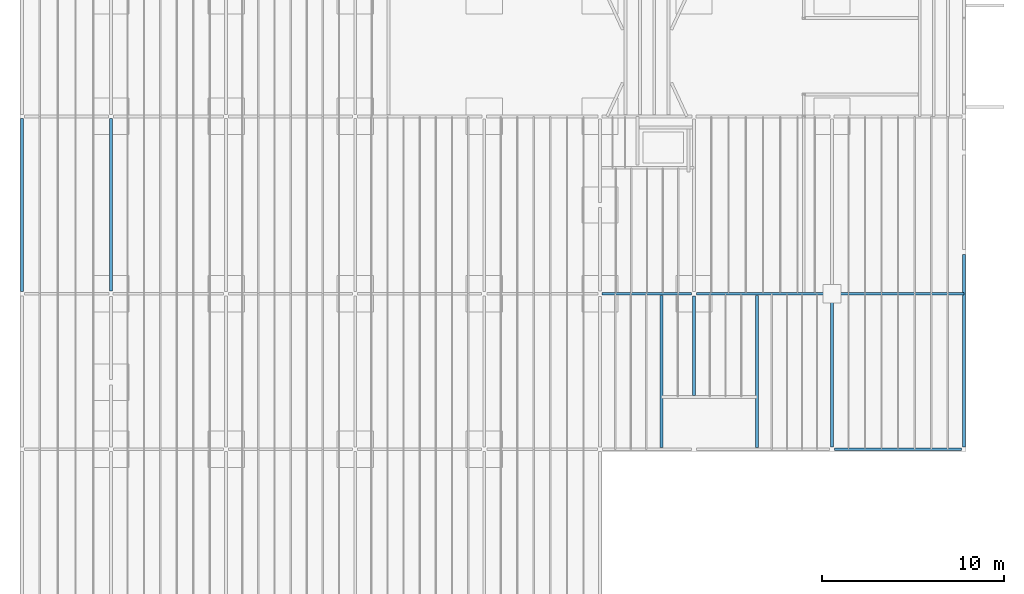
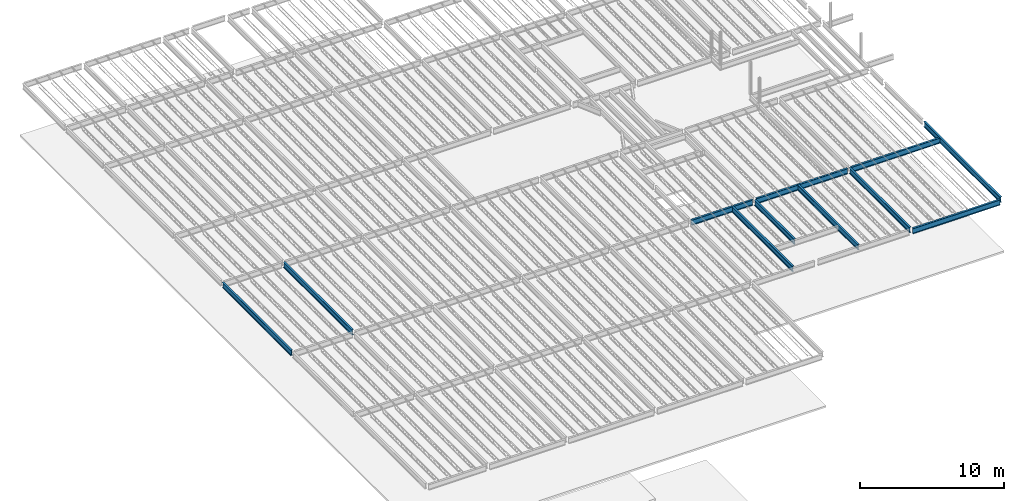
# One storey, part 6 of 75: 11 beams.
"""IFC2X3 building model written with IfcOpenShell, lengths in metres."""

from ifc_helpers import new_model, entity, si_unit, converted_unit, frame, frame_2d, origin, place, context, project, spatial, polyline, circle_curve, parameter, trimmed, segment, composite_curve, outline, extrude, material, element, save


model = new_model("IFC2X3")

# Units and contexts
model_context = context("Model", 3, precision=1e-09, world=origin())
plan_context = context("Plan", 3, precision=1e-09, world=origin())
ifc_project = project(units=[si_unit("LENGTHUNIT", "METRE"), si_unit("AREAUNIT", "SQUARE_METRE"), si_unit("VOLUMEUNIT", "CUBIC_METRE"), converted_unit("PLANEANGLEUNIT", "DEGREE", entity("IfcRatioMeasure", 0.01745329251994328), si_unit("PLANEANGLEUNIT", "RADIAN"), dimensions=[0, 0, 0, 0, 0, 0, 0]), si_unit("TIMEUNIT", "SECOND")], contexts=[model_context, plan_context])

# Site, building, storey
site_placement = place(None, origin())
site = spatial("IfcSite", under=ifc_project, at=site_placement, Name="Default", CompositionType="ELEMENT")
building_placement = place(site_placement, origin())
building = spatial("IfcBuilding", under=site, at=building_placement, CompositionType="ELEMENT")
storey_placement = place(building_placement, origin())
storey = spatial("IfcBuildingStorey", under=building, at=storey_placement, Name="First Floor", CompositionType="ELEMENT", Elevation=-3.531500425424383e-13)

# Beams
ifc_material = material(Name="Metal - Steel - 345 MPa")
beam_1_placement = place(storey_placement, frame((-7.280000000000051, 18.61159788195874, 4.46800000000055), z_axis=(0.0, 0.0, 1.0), x_axis=(-1.0, 0.0, 0.0)))
element("IfcBeam", 1, at=beam_1_placement, inside=storey, material=ifc_material, Name="M_W-Wide Flange:W460X60:W460X60", ObjectType="M_W-Wide Flange:W460X60", context=model_context, shape_type="SweptSolid", body=[
    extrude(outline(composite_curve([segment(polyline([(0.2141999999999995, -0.07650000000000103), (0.2275000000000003, -0.07650000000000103)]), True, "CONTINUOUS"), segment(polyline([(0.2275000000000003, -0.07650000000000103), (0.2275000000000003, 0.07649999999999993)]), True, "CONTINUOUS"), segment(polyline([(0.2275000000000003, 0.07649999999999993), (0.2141999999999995, 0.07649999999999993)]), True, "CONTINUOUS"), segment(polyline([(0.2141999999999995, 0.07649999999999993), (0.2141999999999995, 0.0216999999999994)]), True, "CONTINUOUS"), segment(trimmed(circle_curve(frame_2d((0.1964999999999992, 0.0216999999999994), x_axis=(1.0, 0.0)), 0.0177), [parameter(269.9999999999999)], [parameter(359.9999999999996)], True, "PARAMETER"), False, "CONTINUOUS"), segment(polyline([(0.1964999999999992, 0.003999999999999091), (-0.1965000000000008, 0.003999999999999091)]), True, "CONTINUOUS"), segment(trimmed(circle_curve(frame_2d((-0.1965000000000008, 0.0216999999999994), x_axis=(0.0, -1.0)), 0.0177), [parameter(269.9999999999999)], [parameter(359.9999999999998)], True, "PARAMETER"), False, "CONTINUOUS"), segment(polyline([(-0.2142000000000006, 0.0216999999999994), (-0.2142000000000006, 0.07649999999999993)]), True, "CONTINUOUS"), segment(polyline([(-0.2142000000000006, 0.07649999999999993), (-0.2274999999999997, 0.07649999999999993)]), True, "CONTINUOUS"), segment(polyline([(-0.2274999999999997, 0.07649999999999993), (-0.2274999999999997, -0.07649999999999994)]), True, "CONTINUOUS"), segment(polyline([(-0.2274999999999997, -0.07649999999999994), (-0.2142000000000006, -0.07649999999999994)]), True, "CONTINUOUS"), segment(polyline([(-0.2142000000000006, -0.07649999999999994), (-0.2142000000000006, -0.02170000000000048)]), True, "CONTINUOUS"), segment(trimmed(circle_curve(frame_2d((-0.1965000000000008, -0.02170000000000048), x_axis=(-1.0, 0.0)), 0.0177), [parameter(269.9999999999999)], [parameter(359.9999999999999)], True, "PARAMETER"), False, "CONTINUOUS"), segment(polyline([(-0.1965000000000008, -0.004000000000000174), (0.1964999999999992, -0.004000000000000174)]), True, "CONTINUOUS"), segment(trimmed(circle_curve(frame_2d((0.1964999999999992, -0.02170000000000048), x_axis=(0.0, 1.0)), 0.0177), [parameter(269.9999999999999)], [parameter(5.088887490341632e-14)], True, "PARAMETER"), False, "CONTINUOUS"), segment(polyline([(0.2141999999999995, -0.02170000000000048), (0.2141999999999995, -0.07650000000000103)]), True, "CONTINUOUS")], self_intersect=False)), frame((0.0, 8.456897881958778, -0.2275000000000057), z_axis=(0.0, -1.0, 0.0), x_axis=(0.0, 0.0, -1.0)), (0.0, 0.0, 1.0), 8.340600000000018),
])
beam_2_placement = place(storey_placement, frame((-16.67505879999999, 10.19089431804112, 4.46800000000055)))
element("IfcBeam", 2, at=beam_2_placement, inside=storey, material=ifc_material, Name="M_W-Wide Flange:W460X60:W460X60", ObjectType="M_W-Wide Flange:W460X60", context=model_context, shape_type="SweptSolid", body=[
    extrude(outline(composite_curve([segment(polyline([(-0.0765000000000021, -0.2142), (-0.0765000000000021, -0.2275000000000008)]), True, "CONTINUOUS"), segment(polyline([(-0.0765000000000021, -0.2275000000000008), (0.07649999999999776, -0.2275000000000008)]), True, "CONTINUOUS"), segment(polyline([(0.07649999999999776, -0.2275000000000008), (0.07649999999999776, -0.2142)]), True, "CONTINUOUS"), segment(polyline([(0.07649999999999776, -0.2142), (0.0216999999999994, -0.2142)]), True, "CONTINUOUS"), segment(trimmed(circle_curve(frame_2d((0.0216999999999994, -0.1964999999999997), x_axis=(1.0, 0.0)), 0.0177), [parameter(180.0)], [parameter(269.9999999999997)], True, "PARAMETER"), False, "CONTINUOUS"), segment(polyline([(0.00399999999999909, -0.1964999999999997), (0.00399999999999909, 0.1965000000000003)]), True, "CONTINUOUS"), segment(trimmed(circle_curve(frame_2d((0.0216999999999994, 0.1965000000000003), x_axis=(1.0, 0.0)), 0.0177), [parameter(90.00000000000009)], [parameter(179.9999999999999)], True, "PARAMETER"), False, "CONTINUOUS"), segment(polyline([(0.0216999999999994, 0.2142000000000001), (0.07649999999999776, 0.2142000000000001)]), True, "CONTINUOUS"), segment(polyline([(0.07649999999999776, 0.2142000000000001), (0.07649999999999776, 0.2274999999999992)]), True, "CONTINUOUS"), segment(polyline([(0.07649999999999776, 0.2274999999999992), (-0.0765000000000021, 0.2274999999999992)]), True, "CONTINUOUS"), segment(polyline([(-0.0765000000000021, 0.2274999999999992), (-0.0765000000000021, 0.2142000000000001)]), True, "CONTINUOUS"), segment(polyline([(-0.0765000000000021, 0.2142000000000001), (-0.02170000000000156, 0.2142000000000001)]), True, "CONTINUOUS"), segment(trimmed(circle_curve(frame_2d((-0.02170000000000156, 0.1965000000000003), x_axis=(1.0, 0.0)), 0.0177), [parameter(359.9999999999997)], [parameter(89.99999999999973)], True, "PARAMETER"), False, "CONTINUOUS"), segment(polyline([(-0.004000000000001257, 0.1965000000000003), (-0.004000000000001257, -0.1964999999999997)]), True, "CONTINUOUS"), segment(trimmed(circle_curve(frame_2d((-0.02170000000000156, -0.1964999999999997), x_axis=(1.0, 0.0)), 0.0177), [parameter(269.9999999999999)], [parameter(0.0)], True, "PARAMETER"), False, "CONTINUOUS"), segment(polyline([(-0.02170000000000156, -0.2142), (-0.0765000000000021, -0.2142)]), True, "CONTINUOUS")], self_intersect=False)), frame((0.0, -0.06169431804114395, -0.2275000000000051), z_axis=(0.0, -1.0, 0.0), x_axis=(1.0, 0.0, 0.0)), (0.0, 0.0, -1.0), 8.391600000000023),
])
beam_3_placement = place(storey_placement, frame((-47.0, 18.60859834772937, 4.46800000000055)))
element("IfcBeam", 3, at=beam_3_placement, inside=storey, material=ifc_material, Name="M_W-Wide Flange:W460X60:W460X60", ObjectType="M_W-Wide Flange:W460X60", context=model_context, shape_type="SweptSolid", body=[
    extrude(outline(composite_curve([segment(polyline([(-0.07649999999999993, -0.2142), (-0.07649999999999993, -0.2275000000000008)]), True, "CONTINUOUS"), segment(polyline([(-0.07649999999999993, -0.2275000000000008), (0.07649999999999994, -0.2275000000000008)]), True, "CONTINUOUS"), segment(polyline([(0.07649999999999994, -0.2275000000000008), (0.07649999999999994, -0.2142)]), True, "CONTINUOUS"), segment(polyline([(0.07649999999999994, -0.2142), (0.02170000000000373, -0.2142)]), True, "CONTINUOUS"), segment(trimmed(circle_curve(frame_2d((0.02170000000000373, -0.1964999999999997), x_axis=(0.0, -1.0)), 0.0177), [parameter(269.9999999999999)], [parameter(359.9999999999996)], True, "PARAMETER"), False, "CONTINUOUS"), segment(polyline([(0.003999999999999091, -0.1964999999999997), (0.003999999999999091, 0.1965000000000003)]), True, "CONTINUOUS"), segment(trimmed(circle_curve(frame_2d((0.02170000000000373, 0.1965000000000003), x_axis=(-1.0, 0.0)), 0.0177), [parameter(269.9999999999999)], [parameter(359.9999999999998)], True, "PARAMETER"), False, "CONTINUOUS"), segment(polyline([(0.02170000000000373, 0.2142000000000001), (0.07649999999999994, 0.2142000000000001)]), True, "CONTINUOUS"), segment(polyline([(0.07649999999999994, 0.2142000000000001), (0.07649999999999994, 0.2274999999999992)]), True, "CONTINUOUS"), segment(polyline([(0.07649999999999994, 0.2274999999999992), (-0.07649999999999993, 0.2274999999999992)]), True, "CONTINUOUS"), segment(polyline([(-0.07649999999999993, 0.2274999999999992), (-0.07649999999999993, 0.2142000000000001)]), True, "CONTINUOUS"), segment(polyline([(-0.07649999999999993, 0.2142000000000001), (-0.02170000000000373, 0.2142000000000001)]), True, "CONTINUOUS"), segment(trimmed(circle_curve(frame_2d((-0.02169999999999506, 0.1965000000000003), x_axis=(0.0, 1.0)), 0.0177), [parameter(269.9999999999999)], [parameter(359.9999999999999)], True, "PARAMETER"), False, "CONTINUOUS"), segment(polyline([(-0.003999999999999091, 0.1965000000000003), (-0.003999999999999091, -0.1964999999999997)]), True, "CONTINUOUS"), segment(trimmed(circle_curve(frame_2d((-0.02169999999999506, -0.1964999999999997), x_axis=(1.0, 0.0)), 0.0177), [parameter(269.9999999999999)], [parameter(5.088887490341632e-14)], True, "PARAMETER"), False, "CONTINUOUS"), segment(polyline([(-0.02170000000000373, -0.2142), (-0.07649999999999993, -0.2142)]), True, "CONTINUOUS")], self_intersect=False)), frame((0.0, 0.1426016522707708, -0.2275000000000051), z_axis=(0.0, -1.0, 0.0), x_axis=(1.0, 0.0, 0.0)), (0.0, 0.0, -1.0), 9.514099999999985),
])
beam_4_placement = place(storey_placement, frame((-7.60177678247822, 18.60999999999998, 4.404500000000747), z_axis=(0.0, 0.0, 1.0), x_axis=(0.0, -1.0, 0.0)))
element("IfcBeam", 4, at=beam_4_placement, inside=storey, material=ifc_material, Name="M_W-Wide Flange:W460X60:W460X60", ObjectType="M_W-Wide Flange:W460X60", context=model_context, shape_type="SweptSolid", body=[
    extrude(outline(composite_curve([segment(polyline([(-0.07650000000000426, -0.2141999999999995), (-0.07650000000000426, -0.2275000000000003)]), True, "CONTINUOUS"), segment(polyline([(-0.07650000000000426, -0.2275000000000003), (0.0764999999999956, -0.2275000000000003)]), True, "CONTINUOUS"), segment(polyline([(0.0764999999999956, -0.2275000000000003), (0.0764999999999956, -0.2141999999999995)]), True, "CONTINUOUS"), segment(polyline([(0.0764999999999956, -0.2141999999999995), (0.02169999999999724, -0.2141999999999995)]), True, "CONTINUOUS"), segment(trimmed(circle_curve(frame_2d((0.02169999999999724, -0.1964999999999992), x_axis=(1.0, 0.0)), 0.0177), [parameter(180.0)], [parameter(269.9999999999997)], True, "PARAMETER"), False, "CONTINUOUS"), segment(polyline([(0.003999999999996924, -0.1964999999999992), (0.003999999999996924, 0.1965000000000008)]), True, "CONTINUOUS"), segment(trimmed(circle_curve(frame_2d((0.02169999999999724, 0.1965000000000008), x_axis=(1.0, 0.0)), 0.0177), [parameter(90.00000000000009)], [parameter(179.9999999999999)], True, "PARAMETER"), False, "CONTINUOUS"), segment(polyline([(0.02169999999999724, 0.2142000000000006), (0.0764999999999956, 0.2142000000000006)]), True, "CONTINUOUS"), segment(polyline([(0.0764999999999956, 0.2142000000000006), (0.0764999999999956, 0.2274999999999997)]), True, "CONTINUOUS"), segment(polyline([(0.0764999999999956, 0.2274999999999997), (-0.07650000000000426, 0.2274999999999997)]), True, "CONTINUOUS"), segment(polyline([(-0.07650000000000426, 0.2274999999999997), (-0.07650000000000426, 0.2142000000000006)]), True, "CONTINUOUS"), segment(polyline([(-0.07650000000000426, 0.2142000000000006), (-0.02170000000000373, 0.2142000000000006)]), True, "CONTINUOUS"), segment(trimmed(circle_curve(frame_2d((-0.02170000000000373, 0.1965000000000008), x_axis=(1.0, 0.0)), 0.0177), [parameter(359.9999999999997)], [parameter(89.99999999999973)], True, "PARAMETER"), False, "CONTINUOUS"), segment(polyline([(-0.004000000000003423, 0.1965000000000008), (-0.004000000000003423, -0.1964999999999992)]), True, "CONTINUOUS"), segment(trimmed(circle_curve(frame_2d((-0.02170000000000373, -0.1964999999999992), x_axis=(1.0, 0.0)), 0.0177), [parameter(269.9999999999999)], [parameter(0.0)], True, "PARAMETER"), False, "CONTINUOUS"), segment(polyline([(-0.02170000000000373, -0.2141999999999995), (-0.07650000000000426, -0.2141999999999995)]), True, "CONTINUOUS")], self_intersect=False)), frame((0.0, 0.4629767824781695, -0.2275000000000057), z_axis=(0.0, -1.0, 0.0), x_axis=(1.0, 0.0, 0.0)), (0.0, 0.0, -1.0), 7.138800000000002),
])
beam_5_placement = place(storey_placement, frame((0.0, 10.03874004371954, 4.46800000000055)))
element("IfcBeam", 5, at=beam_5_placement, inside=storey, material=ifc_material, Name="M_W-Wide Flange:W460X60:W460X60", ObjectType="M_W-Wide Flange:W460X60", context=model_context, shape_type="SweptSolid", body=[
    extrude(outline(composite_curve([segment(polyline([(-0.07650000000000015, -0.2142), (-0.07650000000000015, -0.2275000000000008)]), True, "CONTINUOUS"), segment(polyline([(-0.07650000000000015, -0.2275000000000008), (0.07650000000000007, -0.2275000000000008)]), True, "CONTINUOUS"), segment(polyline([(0.07650000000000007, -0.2275000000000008), (0.07650000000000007, -0.2142)]), True, "CONTINUOUS"), segment(polyline([(0.07650000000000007, -0.2142), (0.02169999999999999, -0.2142)]), True, "CONTINUOUS"), segment(trimmed(circle_curve(frame_2d((0.02169999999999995, -0.1964999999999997), x_axis=(1.0, 0.0)), 0.0177), [parameter(180.0)], [parameter(269.9999999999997)], True, "PARAMETER"), False, "CONTINUOUS"), segment(polyline([(0.003999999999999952, -0.1964999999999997), (0.003999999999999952, 0.1965000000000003)]), True, "CONTINUOUS"), segment(trimmed(circle_curve(frame_2d((0.02169999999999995, 0.1965000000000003), x_axis=(1.0, 0.0)), 0.0177), [parameter(90.00000000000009)], [parameter(179.9999999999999)], True, "PARAMETER"), False, "CONTINUOUS"), segment(polyline([(0.02169999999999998, 0.2142000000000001), (0.07650000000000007, 0.2142000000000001)]), True, "CONTINUOUS"), segment(polyline([(0.07650000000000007, 0.2142000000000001), (0.07650000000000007, 0.2274999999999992)]), True, "CONTINUOUS"), segment(polyline([(0.07650000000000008, 0.2274999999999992), (-0.07649999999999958, 0.2274999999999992)]), True, "CONTINUOUS"), segment(polyline([(-0.07649999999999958, 0.2274999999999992), (-0.07649999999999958, 0.2142000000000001)]), True, "CONTINUOUS"), segment(polyline([(-0.07649999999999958, 0.2142000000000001), (-0.02170000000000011, 0.2142000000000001)]), True, "CONTINUOUS"), segment(trimmed(circle_curve(frame_2d((-0.02170000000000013, 0.1965000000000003), x_axis=(1.0, 0.0)), 0.0177), [parameter(359.9999999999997)], [parameter(89.99999999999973)], True, "PARAMETER"), False, "CONTINUOUS"), segment(polyline([(-0.004000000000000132, 0.1965000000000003), (-0.004000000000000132, -0.1964999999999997)]), True, "CONTINUOUS"), segment(trimmed(circle_curve(frame_2d((-0.02170000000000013, -0.1964999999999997), x_axis=(1.0, 0.0)), 0.0177), [parameter(269.9999999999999)], [parameter(0.0)], True, "PARAMETER"), False, "CONTINUOUS"), segment(polyline([(-0.02170000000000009, -0.2142), (-0.07650000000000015, -0.2142)]), True, "CONTINUOUS")], self_intersect=False)), frame((0.0, 0.1159599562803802, -0.2275000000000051), z_axis=(0.0, -1.0, 0.0), x_axis=(1.0, 0.0, 0.0)), (0.0, 0.0, -1.0), 10.61299399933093),
])
beam_6_placement = place(storey_placement, frame((-51.90000000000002, 28.3814016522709, 4.46800000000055), z_axis=(0.0, 0.0, 1.0), x_axis=(-1.0, 0.0, 0.0)))
element("IfcBeam", 6, at=beam_6_placement, inside=storey, material=ifc_material, Name="M_W-Wide Flange:W460X60:W460X60", ObjectType="M_W-Wide Flange:W460X60", context=model_context, shape_type="SweptSolid", body=[
    extrude(outline(composite_curve([segment(polyline([(0.2141999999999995, -0.07649999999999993), (0.2275000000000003, -0.07649999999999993)]), True, "CONTINUOUS"), segment(polyline([(0.2275000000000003, -0.07649999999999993), (0.2275000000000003, 0.07649999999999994)]), True, "CONTINUOUS"), segment(polyline([(0.2275000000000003, 0.07649999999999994), (0.2141999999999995, 0.07649999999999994)]), True, "CONTINUOUS"), segment(polyline([(0.2141999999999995, 0.07649999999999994), (0.2141999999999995, 0.02170000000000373)]), True, "CONTINUOUS"), segment(trimmed(circle_curve(frame_2d((0.1964999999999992, 0.02170000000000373), x_axis=(1.0, 0.0)), 0.0177), [parameter(269.9999999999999)], [parameter(359.9999999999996)], True, "PARAMETER"), False, "CONTINUOUS"), segment(polyline([(0.1964999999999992, 0.003999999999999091), (-0.1965000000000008, 0.003999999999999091)]), True, "CONTINUOUS"), segment(trimmed(circle_curve(frame_2d((-0.1965000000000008, 0.02170000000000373), x_axis=(0.0, -1.0)), 0.0177), [parameter(269.9999999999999)], [parameter(359.9999999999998)], True, "PARAMETER"), False, "CONTINUOUS"), segment(polyline([(-0.2142000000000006, 0.02170000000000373), (-0.2142000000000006, 0.07649999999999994)]), True, "CONTINUOUS"), segment(polyline([(-0.2142000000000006, 0.07649999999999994), (-0.2274999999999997, 0.07649999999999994)]), True, "CONTINUOUS"), segment(polyline([(-0.2274999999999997, 0.07649999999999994), (-0.2274999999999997, -0.07649999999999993)]), True, "CONTINUOUS"), segment(polyline([(-0.2274999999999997, -0.07649999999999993), (-0.2142000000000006, -0.07649999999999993)]), True, "CONTINUOUS"), segment(polyline([(-0.2142000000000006, -0.07649999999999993), (-0.2142000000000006, -0.02170000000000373)]), True, "CONTINUOUS"), segment(trimmed(circle_curve(frame_2d((-0.1965000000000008, -0.02169999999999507), x_axis=(-1.0, 0.0)), 0.0177), [parameter(269.9999999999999)], [parameter(359.9999999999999)], True, "PARAMETER"), False, "CONTINUOUS"), segment(polyline([(-0.1965000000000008, -0.00399999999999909), (0.1964999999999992, -0.00399999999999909)]), True, "CONTINUOUS"), segment(trimmed(circle_curve(frame_2d((0.1964999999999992, -0.02169999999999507), x_axis=(0.0, 1.0)), 0.0177), [parameter(269.9999999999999)], [parameter(5.088887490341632e-14)], True, "PARAMETER"), False, "CONTINUOUS"), segment(polyline([(0.2141999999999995, -0.02170000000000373), (0.2141999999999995, -0.07649999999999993)]), True, "CONTINUOUS")], self_intersect=False)), frame((0.0, 9.656701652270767, -0.2275000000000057), z_axis=(0.0, -1.0, 0.0), x_axis=(0.0, 0.0, -1.0)), (0.0, 0.0, 1.0), 9.540600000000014),
])
beam_7_placement = place(storey_placement, frame((-14.87997499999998, 10.0384021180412, 4.404500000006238)))
element("IfcBeam", 7, at=beam_7_placement, inside=storey, material=ifc_material, Name="M_W-Wide Flange:W460X60:W460X60", ObjectType="M_W-Wide Flange:W460X60", context=model_context, shape_type="SweptSolid", body=[
    extrude(outline(composite_curve([segment(polyline([(-0.07649999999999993, -0.2141999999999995), (-0.07649999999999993, -0.2275000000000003)]), True, "CONTINUOUS"), segment(polyline([(-0.07649999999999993, -0.2275000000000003), (0.07649999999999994, -0.2275000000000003)]), True, "CONTINUOUS"), segment(polyline([(0.07649999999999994, -0.2275000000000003), (0.07649999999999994, -0.2141999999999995)]), True, "CONTINUOUS"), segment(polyline([(0.07649999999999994, -0.2141999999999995), (0.02170000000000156, -0.2141999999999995)]), True, "CONTINUOUS"), segment(trimmed(circle_curve(frame_2d((0.02170000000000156, -0.1964999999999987), x_axis=(1.0, 0.0)), 0.0177), [parameter(180.0)], [parameter(269.9999999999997)], True, "PARAMETER"), False, "CONTINUOUS"), segment(polyline([(0.004000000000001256, -0.1964999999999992), (0.004000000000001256, 0.1965000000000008)]), True, "CONTINUOUS"), segment(trimmed(circle_curve(frame_2d((0.02170000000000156, 0.1965000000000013), x_axis=(1.0, 0.0)), 0.0177), [parameter(90.00000000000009)], [parameter(179.9999999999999)], True, "PARAMETER"), False, "CONTINUOUS"), segment(polyline([(0.02170000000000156, 0.2142000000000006), (0.07649999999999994, 0.2142000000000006)]), True, "CONTINUOUS"), segment(polyline([(0.07649999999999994, 0.2142000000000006), (0.07649999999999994, 0.2274999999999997)]), True, "CONTINUOUS"), segment(polyline([(0.07649999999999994, 0.2274999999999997), (-0.07649999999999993, 0.2274999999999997)]), True, "CONTINUOUS"), segment(polyline([(-0.07649999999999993, 0.2274999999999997), (-0.07649999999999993, 0.2142000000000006)]), True, "CONTINUOUS"), segment(polyline([(-0.07649999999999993, 0.2142000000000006), (-0.0216999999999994, 0.2142000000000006)]), True, "CONTINUOUS"), segment(trimmed(circle_curve(frame_2d((-0.0216999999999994, 0.1965000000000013), x_axis=(1.0, 0.0)), 0.0177), [parameter(359.9999999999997)], [parameter(89.99999999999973)], True, "PARAMETER"), False, "CONTINUOUS"), segment(polyline([(-0.003999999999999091, 0.1965000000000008), (-0.003999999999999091, -0.1964999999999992)]), True, "CONTINUOUS"), segment(trimmed(circle_curve(frame_2d((-0.0216999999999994, -0.1964999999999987), x_axis=(1.0, 0.0)), 0.0177), [parameter(269.9999999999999)], [parameter(0.0)], True, "PARAMETER"), False, "CONTINUOUS"), segment(polyline([(-0.0216999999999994, -0.2141999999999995), (-0.07649999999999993, -0.2141999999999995)]), True, "CONTINUOUS")], self_intersect=False)), frame((0.0, 2.962890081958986, -0.2275000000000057), z_axis=(0.0, -1.0, 0.0), x_axis=(1.0, 0.0, 0.0)), (0.0, 0.0, -1.0), 5.494007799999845),
])
beam_8_placement = place(storey_placement, frame((-7.281880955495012, 10.03999999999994, 4.404500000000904), z_axis=(0.0, 0.0, 1.0), x_axis=(0.0, -1.0, 0.0)))
element("IfcBeam", 8, at=beam_8_placement, inside=storey, material=ifc_material, Name="M_W-Wide Flange:W460X60:W460X60", ObjectType="M_W-Wide Flange:W460X60", context=model_context, shape_type="SweptSolid", body=[
    extrude(outline(composite_curve([segment(polyline([(-0.07649999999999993, -0.2142000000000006), (-0.07649999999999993, -0.2275000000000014)]), True, "CONTINUOUS"), segment(polyline([(-0.07649999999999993, -0.2275000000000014), (0.07649999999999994, -0.2275000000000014)]), True, "CONTINUOUS"), segment(polyline([(0.07649999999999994, -0.2275000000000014), (0.07649999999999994, -0.2142000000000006)]), True, "CONTINUOUS"), segment(polyline([(0.07649999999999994, -0.2142000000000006), (0.02170000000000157, -0.2142000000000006)]), True, "CONTINUOUS"), segment(trimmed(circle_curve(frame_2d((0.0216999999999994, -0.1965000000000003), x_axis=(0.0, -1.0)), 0.0177), [parameter(269.9999999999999)], [parameter(359.9999999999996)], True, "PARAMETER"), False, "CONTINUOUS"), segment(polyline([(0.004000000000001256, -0.1965000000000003), (0.004000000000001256, 0.1964999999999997)]), True, "CONTINUOUS"), segment(trimmed(circle_curve(frame_2d((0.0216999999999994, 0.1964999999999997), x_axis=(-1.0, 0.0)), 0.0177), [parameter(269.9999999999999)], [parameter(359.9999999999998)], True, "PARAMETER"), False, "CONTINUOUS"), segment(polyline([(0.02170000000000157, 0.2141999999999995), (0.07649999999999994, 0.2141999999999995)]), True, "CONTINUOUS"), segment(polyline([(0.07649999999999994, 0.2141999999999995), (0.07649999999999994, 0.2274999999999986)]), True, "CONTINUOUS"), segment(polyline([(0.07649999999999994, 0.2274999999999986), (-0.07649999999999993, 0.2274999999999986)]), True, "CONTINUOUS"), segment(polyline([(-0.07649999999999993, 0.2274999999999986), (-0.07649999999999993, 0.2141999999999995)]), True, "CONTINUOUS"), segment(polyline([(-0.07649999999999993, 0.2141999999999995), (-0.0216999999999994, 0.2141999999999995)]), True, "CONTINUOUS"), segment(trimmed(circle_curve(frame_2d((-0.02170000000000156, 0.1964999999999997), x_axis=(0.0, 1.0)), 0.0177), [parameter(269.9999999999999)], [parameter(359.9999999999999)], True, "PARAMETER"), False, "CONTINUOUS"), segment(polyline([(-0.003999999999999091, 0.1964999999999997), (-0.003999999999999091, -0.1965000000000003)]), True, "CONTINUOUS"), segment(trimmed(circle_curve(frame_2d((-0.02170000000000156, -0.1965000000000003), x_axis=(1.0, 0.0)), 0.0177), [parameter(269.9999999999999)], [parameter(5.088887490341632e-14)], True, "PARAMETER"), False, "CONTINUOUS"), segment(polyline([(-0.0216999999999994, -0.2142000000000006), (-0.07649999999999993, -0.2142000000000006)]), True, "CONTINUOUS")], self_intersect=False)), frame((0.0, 0.1430809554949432, -0.2275000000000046), z_axis=(0.0, -1.0, 0.0), x_axis=(1.0, 0.0, 0.0)), (0.0, 0.0, -1.0), 6.997600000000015),
])
beam_9_placement = place(storey_placement, frame((-11.41805879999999, 10.19089431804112, 4.46800000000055)))
element("IfcBeam", 9, at=beam_9_placement, inside=storey, material=ifc_material, Name="M_W-Wide Flange:W460X60:W460X60", ObjectType="M_W-Wide Flange:W460X60", context=model_context, shape_type="SweptSolid", body=[
    extrude(outline(composite_curve([segment(polyline([(-0.0765000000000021, -0.2142), (-0.0765000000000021, -0.2275000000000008)]), True, "CONTINUOUS"), segment(polyline([(-0.0765000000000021, -0.2275000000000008), (0.07649999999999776, -0.2275000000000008)]), True, "CONTINUOUS"), segment(polyline([(0.07649999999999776, -0.2275000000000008), (0.07649999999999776, -0.2142)]), True, "CONTINUOUS"), segment(polyline([(0.07649999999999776, -0.2142), (0.0216999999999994, -0.2142)]), True, "CONTINUOUS"), segment(trimmed(circle_curve(frame_2d((0.0216999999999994, -0.1964999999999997), x_axis=(1.0, 0.0)), 0.0177), [parameter(180.0)], [parameter(269.9999999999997)], True, "PARAMETER"), False, "CONTINUOUS"), segment(polyline([(0.00399999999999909, -0.1964999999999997), (0.00399999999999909, 0.1965000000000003)]), True, "CONTINUOUS"), segment(trimmed(circle_curve(frame_2d((0.0216999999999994, 0.1965000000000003), x_axis=(1.0, 0.0)), 0.0177), [parameter(90.00000000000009)], [parameter(179.9999999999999)], True, "PARAMETER"), False, "CONTINUOUS"), segment(polyline([(0.0216999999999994, 0.2142000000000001), (0.07649999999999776, 0.2142000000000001)]), True, "CONTINUOUS"), segment(polyline([(0.07649999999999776, 0.2142000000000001), (0.07649999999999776, 0.2274999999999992)]), True, "CONTINUOUS"), segment(polyline([(0.07649999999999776, 0.2274999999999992), (-0.0765000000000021, 0.2274999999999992)]), True, "CONTINUOUS"), segment(polyline([(-0.0765000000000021, 0.2274999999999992), (-0.0765000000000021, 0.2142000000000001)]), True, "CONTINUOUS"), segment(polyline([(-0.0765000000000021, 0.2142000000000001), (-0.02170000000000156, 0.2142000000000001)]), True, "CONTINUOUS"), segment(trimmed(circle_curve(frame_2d((-0.02170000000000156, 0.1965000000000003), x_axis=(1.0, 0.0)), 0.0177), [parameter(359.9999999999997)], [parameter(89.99999999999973)], True, "PARAMETER"), False, "CONTINUOUS"), segment(polyline([(-0.004000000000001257, 0.1965000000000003), (-0.004000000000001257, -0.1964999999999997)]), True, "CONTINUOUS"), segment(trimmed(circle_curve(frame_2d((-0.02170000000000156, -0.1964999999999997), x_axis=(1.0, 0.0)), 0.0177), [parameter(269.9999999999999)], [parameter(0.0)], True, "PARAMETER"), False, "CONTINUOUS"), segment(polyline([(-0.02170000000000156, -0.2142), (-0.0765000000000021, -0.2142)]), True, "CONTINUOUS")], self_intersect=False)), frame((0.0, -0.06169431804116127, -0.2275000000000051), z_axis=(0.0, -1.0, 0.0), x_axis=(1.0, 0.0, 0.0)), (0.0, 0.0, -1.0), 8.391600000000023),
])
beam_10_placement = place(storey_placement, frame((-20.06264315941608, 18.61000000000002, 4.404500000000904), z_axis=(0.0, 0.0, 1.0), x_axis=(0.0, -1.0, 0.0)))
element("IfcBeam", 10, at=beam_10_placement, inside=storey, material=ifc_material, Name="M_W-Wide Flange:W460X60:W460X60", ObjectType="M_W-Wide Flange:W460X60", context=model_context, shape_type="SweptSolid", body=[
    extrude(outline(composite_curve([segment(polyline([(-0.07649999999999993, -0.2142000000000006), (-0.07649999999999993, -0.2275000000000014)]), True, "CONTINUOUS"), segment(polyline([(-0.07649999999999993, -0.2275000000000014), (0.07649999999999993, -0.2275000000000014)]), True, "CONTINUOUS"), segment(polyline([(0.07649999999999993, -0.2275000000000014), (0.07649999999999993, -0.2142000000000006)]), True, "CONTINUOUS"), segment(polyline([(0.07649999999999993, -0.2142000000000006), (0.02170000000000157, -0.2142000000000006)]), True, "CONTINUOUS"), segment(trimmed(circle_curve(frame_2d((0.02170000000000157, -0.1965000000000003), x_axis=(0.0, -1.0)), 0.0177), [parameter(269.9999999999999)], [parameter(359.9999999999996)], True, "PARAMETER"), False, "CONTINUOUS"), segment(polyline([(0.004000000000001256, -0.1965000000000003), (0.004000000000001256, 0.1964999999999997)]), True, "CONTINUOUS"), segment(trimmed(circle_curve(frame_2d((0.02170000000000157, 0.1964999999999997), x_axis=(-1.0, 0.0)), 0.0177), [parameter(269.9999999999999)], [parameter(359.9999999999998)], True, "PARAMETER"), False, "CONTINUOUS"), segment(polyline([(0.02170000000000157, 0.2141999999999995), (0.07649999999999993, 0.2141999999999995)]), True, "CONTINUOUS"), segment(polyline([(0.07649999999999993, 0.2141999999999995), (0.07649999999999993, 0.2274999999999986)]), True, "CONTINUOUS"), segment(polyline([(0.07649999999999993, 0.2274999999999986), (-0.07649999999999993, 0.2274999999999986)]), True, "CONTINUOUS"), segment(polyline([(-0.07649999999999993, 0.2274999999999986), (-0.07649999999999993, 0.2141999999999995)]), True, "CONTINUOUS"), segment(polyline([(-0.07649999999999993, 0.2141999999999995), (-0.0216999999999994, 0.2141999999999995)]), True, "CONTINUOUS"), segment(trimmed(circle_curve(frame_2d((-0.0216999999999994, 0.1964999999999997), x_axis=(0.0, 1.0)), 0.0177), [parameter(269.9999999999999)], [parameter(359.9999999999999)], True, "PARAMETER"), False, "CONTINUOUS"), segment(polyline([(-0.003999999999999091, 0.1964999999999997), (-0.003999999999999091, -0.1965000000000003)]), True, "CONTINUOUS"), segment(trimmed(circle_curve(frame_2d((-0.0216999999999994, -0.1965000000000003), x_axis=(1.0, 0.0)), 0.0177), [parameter(269.9999999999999)], [parameter(5.088887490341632e-14)], True, "PARAMETER"), False, "CONTINUOUS"), segment(polyline([(-0.0216999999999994, -0.2142000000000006), (-0.07649999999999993, -0.2142000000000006)]), True, "CONTINUOUS")], self_intersect=False)), frame((0.0, 0.1173431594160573, -0.2275000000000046), z_axis=(0.0, -1.0, 0.0), x_axis=(1.0, 0.0, 0.0)), (0.0, 0.0, -1.0), 4.924125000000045),
])
beam_11_placement = place(storey_placement, frame((-14.88177678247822, 18.61, 4.404500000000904), z_axis=(0.0, 0.0, 1.0), x_axis=(0.0, -1.0, 0.0)))
element("IfcBeam", 11, at=beam_11_placement, inside=storey, material=ifc_material, Name="M_W-Wide Flange:W460X60:W460X60", ObjectType="M_W-Wide Flange:W460X60", context=model_context, shape_type="SweptSolid", body=[
    extrude(outline(composite_curve([segment(polyline([(-0.07649999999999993, -0.2142000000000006), (-0.07649999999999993, -0.2275000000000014)]), True, "CONTINUOUS"), segment(polyline([(-0.07649999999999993, -0.2275000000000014), (0.07649999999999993, -0.2275000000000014)]), True, "CONTINUOUS"), segment(polyline([(0.07649999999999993, -0.2275000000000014), (0.07649999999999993, -0.2142000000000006)]), True, "CONTINUOUS"), segment(polyline([(0.07649999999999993, -0.2142000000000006), (0.02170000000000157, -0.2142000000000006)]), True, "CONTINUOUS"), segment(trimmed(circle_curve(frame_2d((0.0216999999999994, -0.1965000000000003), x_axis=(0.0, -1.0)), 0.0177), [parameter(269.9999999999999)], [parameter(359.9999999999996)], True, "PARAMETER"), False, "CONTINUOUS"), segment(polyline([(0.004000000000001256, -0.1965000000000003), (0.004000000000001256, 0.1964999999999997)]), True, "CONTINUOUS"), segment(trimmed(circle_curve(frame_2d((0.0216999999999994, 0.1964999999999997), x_axis=(-1.0, 0.0)), 0.0177), [parameter(269.9999999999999)], [parameter(359.9999999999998)], True, "PARAMETER"), False, "CONTINUOUS"), segment(polyline([(0.02170000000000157, 0.2141999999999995), (0.07649999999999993, 0.2141999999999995)]), True, "CONTINUOUS"), segment(polyline([(0.07649999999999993, 0.2141999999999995), (0.07649999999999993, 0.2274999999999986)]), True, "CONTINUOUS"), segment(polyline([(0.07649999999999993, 0.2274999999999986), (-0.07649999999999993, 0.2274999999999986)]), True, "CONTINUOUS"), segment(polyline([(-0.07649999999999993, 0.2274999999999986), (-0.07649999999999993, 0.2141999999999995)]), True, "CONTINUOUS"), segment(polyline([(-0.07649999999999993, 0.2141999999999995), (-0.0216999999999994, 0.2141999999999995)]), True, "CONTINUOUS"), segment(trimmed(circle_curve(frame_2d((-0.02170000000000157, 0.1964999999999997), x_axis=(0.0, 1.0)), 0.0177), [parameter(269.9999999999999)], [parameter(359.9999999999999)], True, "PARAMETER"), False, "CONTINUOUS"), segment(polyline([(-0.003999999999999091, 0.1964999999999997), (-0.003999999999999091, -0.1965000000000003)]), True, "CONTINUOUS"), segment(trimmed(circle_curve(frame_2d((-0.02170000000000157, -0.1965000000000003), x_axis=(1.0, 0.0)), 0.0177), [parameter(269.9999999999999)], [parameter(5.088887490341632e-14)], True, "PARAMETER"), False, "CONTINUOUS"), segment(polyline([(-0.0216999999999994, -0.2142000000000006), (-0.07649999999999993, -0.2142000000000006)]), True, "CONTINUOUS")], self_intersect=False)), frame((0.0, 0.1430017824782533, -0.2275000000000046), z_axis=(0.0, -1.0, 0.0), x_axis=(1.0, 0.0, 0.0)), (0.0, 0.0, -1.0), 7.31757499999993),
])

save(model, "model.ifc")
